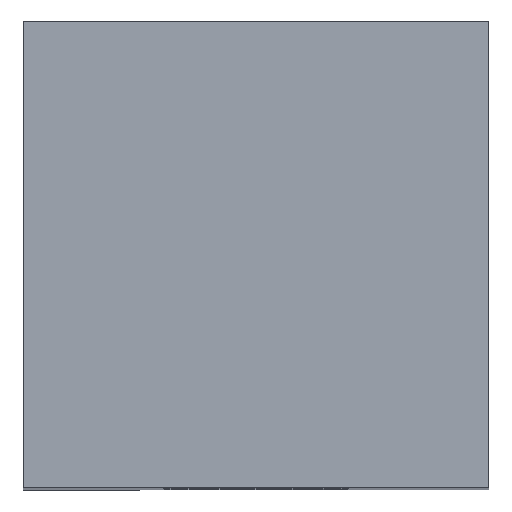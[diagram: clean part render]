
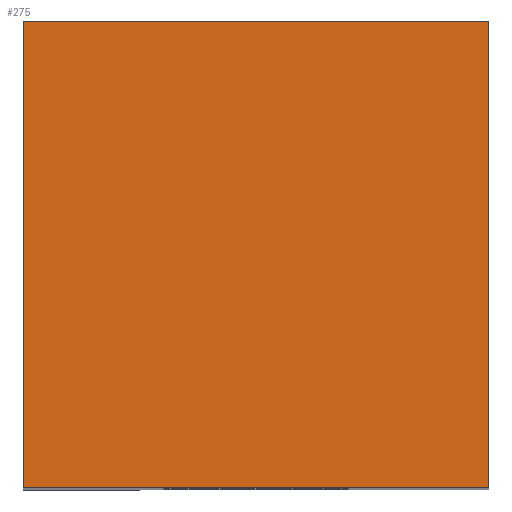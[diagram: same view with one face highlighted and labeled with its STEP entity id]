
A CAD part, top view. The second image highlights one B-rep face of the part: STEP entity #275.
In plain terms, the highlighted planar face has unit normal (0, 0, 1).
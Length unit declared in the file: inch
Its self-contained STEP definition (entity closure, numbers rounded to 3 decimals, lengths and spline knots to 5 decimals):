
#7 = DIRECTION ( 'NONE',  ( 1., 0., 0. ) ) ;
#16 = LINE ( 'NONE', #431, #159 ) ;
#24 = EDGE_CURVE ( 'NONE', #408, #83, #352, .T. ) ;
#39 = FACE_OUTER_BOUND ( 'NONE', #513, .T. ) ;
#83 = VERTEX_POINT ( 'NONE', #91 ) ;
#88 = CARTESIAN_POINT ( 'NONE',  ( 0.1875, -0.1875, 0. ) ) ;
#91 = CARTESIAN_POINT ( 'NONE',  ( 0.1875, -0.1875, 0. ) ) ;
#96 = LINE ( 'NONE', #334, #304 ) ;
#103 = DIRECTION ( 'NONE',  ( -1., 0., 0. ) ) ;
#114 = ORIENTED_EDGE ( 'NONE', *, *, #366, .T. ) ;
#129 = EDGE_CURVE ( 'NONE', #462, #408, #387, .T. ) ;
#150 = VERTEX_POINT ( 'NONE', #478 ) ;
#159 = VECTOR ( 'NONE', #103, 39.37008 ) ;
#161 = AXIS2_PLACEMENT_3D ( 'NONE', #211, #249, #274 ) ;
#178 = ORIENTED_EDGE ( 'NONE', *, *, #24, .T. ) ;
#179 = ORIENTED_EDGE ( 'NONE', *, *, #129, .T. ) ;
#211 = CARTESIAN_POINT ( 'NONE',  ( -0.1875, 0.1875, 0. ) ) ;
#241 = CARTESIAN_POINT ( 'NONE',  ( -0.1875, -0.1875, 0. ) ) ;
#249 = DIRECTION ( 'NONE',  ( 0., 0., 1. ) ) ;
#252 = DIRECTION ( 'NONE',  ( 0., 1., 0. ) ) ;
#274 = DIRECTION ( 'NONE',  ( 1., 0., 0. ) ) ;
#275 = ADVANCED_FACE ( 'NONE', ( #39 ), #470, .T. ) ;
#291 = CARTESIAN_POINT ( 'NONE',  ( -0.1875, -0.1875, 0. ) ) ;
#299 = VECTOR ( 'NONE', #434, 39.37008 ) ;
#304 = VECTOR ( 'NONE', #252, 39.37008 ) ;
#334 = CARTESIAN_POINT ( 'NONE',  ( 0.1875, -0.1875, 0. ) ) ;
#347 = CARTESIAN_POINT ( 'NONE',  ( -0.1875, 0.1875, 0. ) ) ;
#352 = LINE ( 'NONE', #88, #489 ) ;
#366 = EDGE_CURVE ( 'NONE', #150, #462, #16, .T. ) ;
#387 = LINE ( 'NONE', #241, #299 ) ;
#408 = VERTEX_POINT ( 'NONE', #291 ) ;
#431 = CARTESIAN_POINT ( 'NONE',  ( 0.1875, 0.1875, 0. ) ) ;
#434 = DIRECTION ( 'NONE',  ( 0., -1., 0. ) ) ;
#462 = VERTEX_POINT ( 'NONE', #347 ) ;
#470 = PLANE ( 'NONE',  #161 ) ;
#478 = CARTESIAN_POINT ( 'NONE',  ( 0.1875, 0.1875, 0. ) ) ;
#489 = VECTOR ( 'NONE', #7, 39.37008 ) ;
#512 = ORIENTED_EDGE ( 'NONE', *, *, #534, .T. ) ;
#513 = EDGE_LOOP ( 'NONE', ( #179, #178, #512, #114 ) ) ;
#534 = EDGE_CURVE ( 'NONE', #83, #150, #96, .T. ) ;
